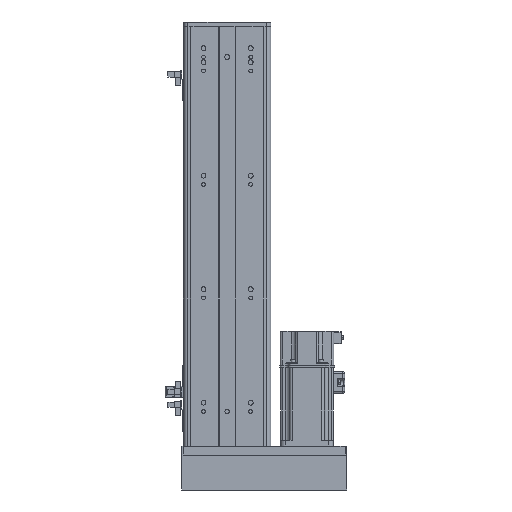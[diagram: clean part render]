
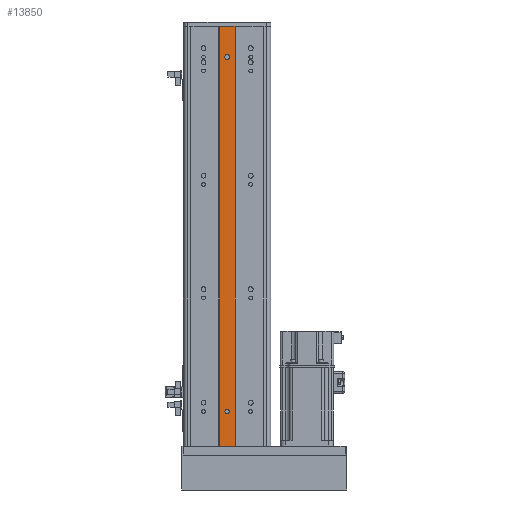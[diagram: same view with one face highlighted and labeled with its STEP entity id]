
A CAD part, front view. The second image highlights one B-rep face of the part: STEP entity #13850.
In plain terms, the highlighted planar face has unit normal (0, -1, 0).
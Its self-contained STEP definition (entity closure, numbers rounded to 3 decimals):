
#1690 = EDGE_CURVE ( 'NONE', #55601, #44992, #28818, .T. ) ;
#5805 = EDGE_CURVE ( 'NONE', #37600, #43307, #28068, .T. ) ;
#6438 = AXIS2_PLACEMENT_3D ( 'NONE', #58539, #42324, #15660 ) ;
#12187 = LINE ( 'NONE', #24151, #18875 ) ;
#12870 = CIRCLE ( 'NONE', #42905, 2.5 ) ;
#13238 = VERTEX_POINT ( 'NONE', #14486 ) ;
#13284 = ORIENTED_EDGE ( 'NONE', *, *, #35481, .T. ) ;
#13313 = EDGE_LOOP ( 'NONE', ( #52476, #14394, #34702, #13284 ) ) ;
#13783 = DIRECTION ( 'NONE',  ( 0., 1., 0. ) ) ;
#13850 = ADVANCED_FACE ( 'NONE', ( #59561, #67038, #52952 ), #62454, .F. ) ;
#13890 = DIRECTION ( 'NONE',  ( 1., 0., 0. ) ) ;
#14394 = ORIENTED_EDGE ( 'NONE', *, *, #1690, .T. ) ;
#14486 = CARTESIAN_POINT ( 'NONE',  ( 9., 1.309, 611. ) ) ;
#14857 = LINE ( 'NONE', #29544, #43082 ) ;
#15004 = EDGE_LOOP ( 'NONE', ( #63207, #56971 ) ) ;
#15511 = EDGE_CURVE ( 'NONE', #44749, #24750, #34517, .T. ) ;
#15660 = DIRECTION ( 'NONE',  ( 0., 0., 1. ) ) ;
#17472 = VERTEX_POINT ( 'NONE', #30654 ) ;
#18129 = EDGE_CURVE ( 'NONE', #13238, #23477, #32193, .T. ) ;
#18875 = VECTOR ( 'NONE', #13890, 1000. ) ;
#19226 = ORIENTED_EDGE ( 'NONE', *, *, #18129, .F. ) ;
#19764 = VECTOR ( 'NONE', #68410, 1000. ) ;
#20725 = VECTOR ( 'NONE', #36590, 1000. ) ;
#21468 = CIRCLE ( 'NONE', #47506, 2.5 ) ;
#22517 = EDGE_CURVE ( 'NONE', #42133, #55601, #66354, .T. ) ;
#22776 = CARTESIAN_POINT ( 'NONE',  ( 9., 1.309, 130. ) ) ;
#23126 = CARTESIAN_POINT ( 'NONE',  ( 0., 1.309, 575.5 ) ) ;
#23153 = CARTESIAN_POINT ( 'NONE',  ( -9., 1.309, 611. ) ) ;
#23477 = VERTEX_POINT ( 'NONE', #22776 ) ;
#24151 = CARTESIAN_POINT ( 'NONE',  ( -9., 1.309, 611. ) ) ;
#24262 = DIRECTION ( 'NONE',  ( 0., 0., 1. ) ) ;
#24750 = VERTEX_POINT ( 'NONE', #31529 ) ;
#25181 = AXIS2_PLACEMENT_3D ( 'NONE', #52254, #57547, #57790 ) ;
#27321 = CARTESIAN_POINT ( 'NONE',  ( -9., 1.309, 611. ) ) ;
#27410 = EDGE_CURVE ( 'NONE', #44992, #17472, #14857, .T. ) ;
#28068 = LINE ( 'NONE', #23153, #37195 ) ;
#28818 = CIRCLE ( 'NONE', #6438, 2.5 ) ;
#29544 = CARTESIAN_POINT ( 'NONE',  ( 2.5, 1.309, 611. ) ) ;
#30240 = CARTESIAN_POINT ( 'NONE',  ( 0., 1.309, 170. ) ) ;
#30654 = CARTESIAN_POINT ( 'NONE',  ( 2.5, 1.309, 575.5 ) ) ;
#31386 = VECTOR ( 'NONE', #55665, 1000. ) ;
#31529 = CARTESIAN_POINT ( 'NONE',  ( 2.5, 1.309, 170. ) ) ;
#32193 = LINE ( 'NONE', #68186, #19764 ) ;
#33743 = DIRECTION ( 'NONE',  ( 0., 0., 1. ) ) ;
#34517 = CIRCLE ( 'NONE', #55022, 2.5 ) ;
#34702 = ORIENTED_EDGE ( 'NONE', *, *, #27410, .T. ) ;
#35017 = ORIENTED_EDGE ( 'NONE', *, *, #5805, .T. ) ;
#35481 = EDGE_CURVE ( 'NONE', #17472, #42133, #21468, .T. ) ;
#36590 = DIRECTION ( 'NONE',  ( 0., 0., 1. ) ) ;
#37195 = VECTOR ( 'NONE', #65610, 1000. ) ;
#37386 = CARTESIAN_POINT ( 'NONE',  ( -2.5, 1.309, 575.5 ) ) ;
#37545 = EDGE_LOOP ( 'NONE', ( #59416, #19226, #52039, #35017 ) ) ;
#37600 = VERTEX_POINT ( 'NONE', #27321 ) ;
#42133 = VERTEX_POINT ( 'NONE', #37386 ) ;
#42324 = DIRECTION ( 'NONE',  ( 0., 1., 0. ) ) ;
#42905 = AXIS2_PLACEMENT_3D ( 'NONE', #30240, #67408, #46256 ) ;
#43082 = VECTOR ( 'NONE', #55770, 1000. ) ;
#43307 = VERTEX_POINT ( 'NONE', #48076 ) ;
#44749 = VERTEX_POINT ( 'NONE', #66145 ) ;
#44992 = VERTEX_POINT ( 'NONE', #67762 ) ;
#45687 = CARTESIAN_POINT ( 'NONE',  ( 0., 1.309, 130. ) ) ;
#46256 = DIRECTION ( 'NONE',  ( 0., 0., 1. ) ) ;
#47506 = AXIS2_PLACEMENT_3D ( 'NONE', #23126, #65583, #33743 ) ;
#48076 = CARTESIAN_POINT ( 'NONE',  ( -9., 1.309, 130. ) ) ;
#48160 = CARTESIAN_POINT ( 'NONE',  ( -2.5, 1.309, 611. ) ) ;
#50458 = CARTESIAN_POINT ( 'NONE',  ( 0., 1.309, 170. ) ) ;
#52039 = ORIENTED_EDGE ( 'NONE', *, *, #67246, .F. ) ;
#52254 = CARTESIAN_POINT ( 'NONE',  ( 0., 1.309, 611. ) ) ;
#52476 = ORIENTED_EDGE ( 'NONE', *, *, #22517, .T. ) ;
#52952 = FACE_OUTER_BOUND ( 'NONE', #37545, .T. ) ;
#53495 = EDGE_CURVE ( 'NONE', #24750, #44749, #12870, .T. ) ;
#55022 = AXIS2_PLACEMENT_3D ( 'NONE', #50458, #13783, #24262 ) ;
#55601 = VERTEX_POINT ( 'NONE', #60658 ) ;
#55665 = DIRECTION ( 'NONE',  ( -1., 0., 0. ) ) ;
#55770 = DIRECTION ( 'NONE',  ( 0., 0., -1. ) ) ;
#56971 = ORIENTED_EDGE ( 'NONE', *, *, #15511, .T. ) ;
#57547 = DIRECTION ( 'NONE',  ( 0., 1., 0. ) ) ;
#57790 = DIRECTION ( 'NONE',  ( 0., 0., 1. ) ) ;
#58539 = CARTESIAN_POINT ( 'NONE',  ( 0., 1.309, 576.5 ) ) ;
#59416 = ORIENTED_EDGE ( 'NONE', *, *, #67228, .F. ) ;
#59561 = FACE_BOUND ( 'NONE', #13313, .T. ) ;
#59583 = LINE ( 'NONE', #45687, #31386 ) ;
#60658 = CARTESIAN_POINT ( 'NONE',  ( -2.5, 1.309, 576.5 ) ) ;
#62454 = PLANE ( 'NONE',  #25181 ) ;
#63207 = ORIENTED_EDGE ( 'NONE', *, *, #53495, .T. ) ;
#65583 = DIRECTION ( 'NONE',  ( 0., 1., 0. ) ) ;
#65610 = DIRECTION ( 'NONE',  ( 0., 0., -1. ) ) ;
#66145 = CARTESIAN_POINT ( 'NONE',  ( -2.5, 1.309, 170. ) ) ;
#66354 = LINE ( 'NONE', #48160, #20725 ) ;
#67038 = FACE_BOUND ( 'NONE', #15004, .T. ) ;
#67228 = EDGE_CURVE ( 'NONE', #23477, #43307, #59583, .T. ) ;
#67246 = EDGE_CURVE ( 'NONE', #37600, #13238, #12187, .T. ) ;
#67408 = DIRECTION ( 'NONE',  ( 0., 1., 0. ) ) ;
#67762 = CARTESIAN_POINT ( 'NONE',  ( 2.5, 1.309, 576.5 ) ) ;
#68186 = CARTESIAN_POINT ( 'NONE',  ( 9., 1.309, 611. ) ) ;
#68410 = DIRECTION ( 'NONE',  ( 0., 0., -1. ) ) ;
